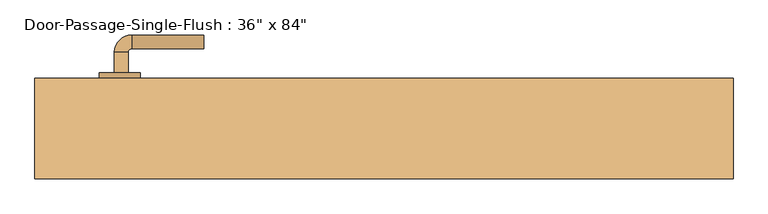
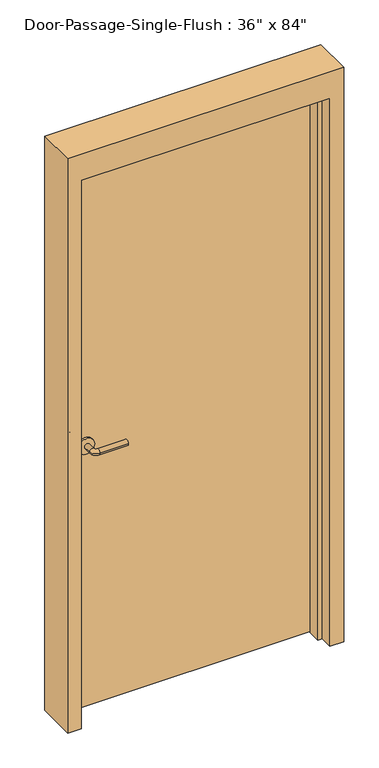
"""IFC4 building model written with IfcOpenShell, lengths in millimetres: door geometry."""

from ifc_helpers import new_model, si_unit, point, frame, frame_2d, origin, origin_with_axes, place, context, project, spatial, polyline, circle_curve, ellipse_curve, trimmed, segment, composite_curve, outline, extrude, faceted_brep, source, transform, mapped, element, save
from ifc_brep_helpers import plane_surface, cylinder_surface, revolved_surface, advanced_brep


def door_4b82438d(model_context):
    return source(origin(), model_context, "Body", "SolidModel", [
        advanced_brep(
        [(-392.190625, -8.0, 1016.0), (-372.190625, -8.0, 1016.0), (-372.190625, -38.0, 1016.0), (-392.190625, -38.0, 1016.0), (-367.190625, -43.0, 1016.0), (-367.190625, -63.0, 1016.0), (-262.190625, -63.0, 1016.0), (-262.190625, -43.0, 1016.0)],
        [
            (0, 1, circle_curve(frame((-382.190625, -8.0, 1016.0), z_axis=(0.0, 1.0, 0.0), x_axis=(1.0, 0.0, 0.0)), 10.0)),
            (1, 0, circle_curve(frame((-382.190625, -8.0, 1016.0), z_axis=(0.0, 1.0, 0.0), x_axis=(1.0, 0.0, 0.0)), 10.0)),
            (1, 2),
            (2, 3, circle_curve(frame((-382.190625, -38.0, 1016.0), z_axis=(0.0, 1.0, 0.0), x_axis=(1.0, 0.0, 0.0)), 10.0)),
            (3, 0),
            (3, 2, circle_curve(frame((-382.190625, -38.0, 1016.0), z_axis=(0.0, 1.0, 0.0), x_axis=(1.0, 0.0, 0.0)), 10.0)),
            (4, 5, circle_curve(frame((-367.190625, -53.0, 1016.0), z_axis=(-1.0, 0.0, 0.0), x_axis=(0.0, 1.0, 0.0)), 10.0)),
            (5, 3, circle_curve(frame((-367.190625, -38.0, 1016.0), z_axis=(0.0, 0.0, -1.0), x_axis=(-1.0, 0.0, 0.0)), 25.0)),
            (2, 4, circle_curve(frame((-367.190625, -38.0, 1016.0), z_axis=(0.0, 0.0, 1.0), x_axis=(-1.0, 0.0, 0.0)), 5.0)),
            (5, 4, circle_curve(frame((-367.190625, -53.0, 1016.0), z_axis=(-1.0, 0.0, 0.0), x_axis=(0.0, 1.0, 0.0)), 10.0)),
            (6, 7, circle_curve(frame((-262.190625, -53.0, 1016.0), z_axis=(1.0, 0.0, 0.0), x_axis=(0.0, 1.0, 0.0)), 10.0)),
            (7, 6, circle_curve(frame((-262.190625, -53.0, 1016.0), z_axis=(1.0, 0.0, 0.0), x_axis=(0.0, 1.0, 0.0)), 10.0)),
            (4, 7),
            (6, 5),
        ],
        [
            plane_surface(frame((-382.190625, -8.0, 1016.0), z_axis=(0.0, 1.0, 0.0), x_axis=(0.0, 0.0, 1.0))),
            cylinder_surface(frame((-382.190625, -8.0, 1016.0), z_axis=(0.0, 1.0, 0.0), x_axis=(1.0, 0.0, 0.0)), 10.0),
            revolved_surface(trimmed(ellipse_curve(frame((-382.190625, -38.0, 1016.0), z_axis=(0.0, -1.0, 0.0), x_axis=(1.0, 0.0, 0.0)), 10.0, 10.0), [point((-392.190625, -38.0, 1016.0))], [point((-372.190625, -38.0, 1016.0))], True, "CARTESIAN"), (-367.190625, -38.0, 1016.0), (0.0, 0.0, -1.0)),
            revolved_surface(trimmed(ellipse_curve(frame((-382.190625, -38.0, 1016.0), z_axis=(0.0, -1.0, 0.0), x_axis=(1.0, 0.0, 0.0)), 10.0, 10.0), [point((-372.190625, -38.0, 1016.0))], [point((-392.190625, -38.0, 1016.0))], True, "CARTESIAN"), (-367.190625, -38.0, 1016.0), (0.0, 0.0, -1.0)),
            plane_surface(frame((-262.190625, -53.0, 1016.0), z_axis=(1.0, 0.0, 0.0), x_axis=(0.0, 0.0, 1.0))),
            cylinder_surface(frame((-367.190625, -53.0, 1016.0), z_axis=(-1.0, 0.0, 0.0), x_axis=(0.0, 1.0, 0.0)), 10.0),
        ],
        [
            (0, [[1, 2]]),
            (1, [[3, 4, 5, -2]]),
            (1, [[-5, 6, -3, -1]]),
            (2, [[7, 8, -4, 9]]),
            (3, [[10, -9, -6, -8]]),
            (4, [[11, 12]]),
            (5, [[13, -11, 14, -7]]),
            (5, [[-14, -12, -13, -10]]),
        ],
    ),
        extrude(outline(composite_curve([segment(trimmed(circle_curve(frame_2d((1016.0, -384.690625)), 30.0), [point((1016.0, -414.690625))], [point((1016.0, -354.690625))], False, "CARTESIAN"), True, "CONTINUOUS"), segment(trimmed(circle_curve(frame_2d((1016.0, -384.690625)), 30.0), [point((1016.0, -354.690625))], [point((1016.0, -414.690625))], False, "CARTESIAN"), True, "CONTINUOUS")], self_intersect=False)), frame((0.0, -8.0, 0.0), z_axis=(0.0, 1.0, 0.0), x_axis=(0.0, 0.0, 1.0)), (0.0, 0.0, 1.0), 8.0),
        advanced_brep(
        [(-392.190625, 52.45, 1016.0), (-372.190625, 52.45, 1016.0), (-392.190625, 82.45, 1016.0), (-372.190625, 82.45, 1016.0), (-367.190625, 87.45, 1016.0), (-367.190625, 107.45, 1016.0), (-262.190625, 107.45, 1016.0), (-262.190625, 87.45, 1016.0)],
        [
            (0, 1, circle_curve(frame((-382.190625, 52.45, 1016.0), z_axis=(0.0, -1.0, 0.0), x_axis=(1.0, 0.0, 0.0)), 10.0)),
            (1, 0, circle_curve(frame((-382.190625, 52.45, 1016.0), z_axis=(0.0, -1.0, 0.0), x_axis=(1.0, 0.0, 0.0)), 10.0)),
            (0, 2),
            (2, 3, circle_curve(frame((-382.190625, 82.45, 1016.0), z_axis=(0.0, -1.0, 0.0), x_axis=(1.0, 0.0, 0.0)), 10.0)),
            (3, 1),
            (3, 2, circle_curve(frame((-382.190625, 82.45, 1016.0), z_axis=(0.0, -1.0, 0.0), x_axis=(1.0, 0.0, 0.0)), 10.0)),
            (4, 3, circle_curve(frame((-367.190625, 82.45, 1016.0), z_axis=(0.0, 0.0, 1.0), x_axis=(-1.0, 0.0, 0.0)), 5.0)),
            (2, 5, circle_curve(frame((-367.190625, 82.45, 1016.0), z_axis=(0.0, 0.0, -1.0), x_axis=(-1.0, 0.0, 0.0)), 25.0)),
            (5, 4, circle_curve(frame((-367.190625, 97.45, 1016.0), z_axis=(-1.0, 0.0, 0.0), x_axis=(0.0, -1.0, 0.0)), 10.0)),
            (4, 5, circle_curve(frame((-367.190625, 97.45, 1016.0), z_axis=(-1.0, 0.0, 0.0), x_axis=(0.0, -1.0, 0.0)), 10.0)),
            (6, 7, circle_curve(frame((-262.190625, 97.45, 1016.0), z_axis=(1.0, 0.0, 0.0), x_axis=(0.0, -1.0, 0.0)), 10.0)),
            (7, 6, circle_curve(frame((-262.190625, 97.45, 1016.0), z_axis=(1.0, 0.0, 0.0), x_axis=(0.0, -1.0, 0.0)), 10.0)),
            (5, 6),
            (7, 4),
        ],
        [
            plane_surface(frame((-382.190625, 52.45, 1016.0), z_axis=(0.0, -1.0, 0.0), x_axis=(0.0, 0.0, 1.0))),
            cylinder_surface(frame((-382.190625, 52.45, 1016.0), z_axis=(0.0, -1.0, 0.0), x_axis=(1.0, 0.0, 0.0)), 10.0),
            revolved_surface(trimmed(ellipse_curve(frame((-382.190625, 82.45, 1016.0), z_axis=(0.0, -1.0, 0.0), x_axis=(1.0, 0.0, 0.0)), 10.0, 10.0), [point((-392.190625, 82.45, 1016.0))], [point((-372.190625, 82.45, 1016.0))], True, "CARTESIAN"), (-367.190625, 82.45, 1016.0), (0.0, 0.0, -1.0)),
            revolved_surface(trimmed(ellipse_curve(frame((-382.190625, 82.45, 1016.0), z_axis=(0.0, -1.0, 0.0), x_axis=(1.0, 0.0, 0.0)), 10.0, 10.0), [point((-372.190625, 82.45, 1016.0))], [point((-392.190625, 82.45, 1016.0))], True, "CARTESIAN"), (-367.190625, 82.45, 1016.0), (0.0, 0.0, -1.0)),
            plane_surface(frame((-262.190625, 97.45, 1016.0), z_axis=(1.0, 0.0, 0.0), x_axis=(0.0, 0.0, 1.0))),
            cylinder_surface(frame((-367.190625, 97.45, 1016.0), z_axis=(-1.0, 0.0, 0.0), x_axis=(0.0, -1.0, 0.0)), 10.0),
        ],
        [
            (0, [[1, 2]]),
            (1, [[-1, 3, 4, 5]]),
            (1, [[-2, -5, 6, -3]]),
            (2, [[7, -4, 8, 9]]),
            (3, [[-8, -6, -7, 10]]),
            (4, [[11, 12]]),
            (5, [[-9, 13, -12, 14]]),
            (5, [[-10, -14, -11, -13]]),
        ],
    ),
        extrude(outline(composite_curve([segment(trimmed(circle_curve(frame_2d((1016.0, -384.690625)), 30.0), [point((1016.0, -414.690625))], [point((1016.0, -354.690625))], False, "CARTESIAN"), True, "CONTINUOUS"), segment(trimmed(circle_curve(frame_2d((1016.0, -384.690625)), 30.0), [point((1016.0, -354.690625))], [point((1016.0, -414.690625))], False, "CARTESIAN"), True, "CONTINUOUS")], self_intersect=False)), frame((0.0, 44.45, 0.0), z_axis=(0.0, 1.0, 0.0), x_axis=(0.0, 0.0, 1.0)), (0.0, 0.0, 1.0), 8.0),
        faceted_brep([(457.2, -4.7625, 0.0), (457.2, 44.45, 0.0), (508.0, 44.45, 0.0), (508.0, -101.6, 0.0), (457.2, -101.6, 0.0), (457.2, -52.3875, 0.0), (441.325, -52.3875, 0.0), (441.325, -4.7625, 0.0), (457.2, -4.7625, 2133.6), (457.2, 44.45, 2133.6), (-457.2, 44.45, 2133.6), (-457.2, 44.45, 0.0), (-508.0, 44.45, 0.0), (-508.0, 44.45, 2235.2), (508.0, 44.45, 2235.2), (508.0, -101.6, 2235.2), (-508.0, -101.6, 2235.2), (-508.0, -101.6, 0.0), (-457.2, -101.6, 0.0), (-457.2, -101.6, 2133.6), (457.2, -101.6, 2133.6), (457.2, -52.3875, 2133.6), (-457.2, -52.3875, 2133.6), (-457.2, -52.3875, 0.0), (-441.325, -52.3875, 0.0), (-441.325, -52.3875, 2117.725), (441.325, -52.3875, 2117.725), (441.325, -4.7625, 2117.725), (-441.325, -4.7625, 2117.725), (-441.325, -4.7625, 0.0), (-457.2, -4.7625, 0.0), (-457.2, -4.7625, 2133.6)], [[[0, 1, 2, 3, 4, 5, 6, 7]], [[1, 0, 8, 9]], [[2, 1, 9, 10, 11, 12, 13, 14]], [[3, 2, 14, 15]], [[4, 3, 15, 16, 17, 18, 19, 20]], [[5, 4, 20, 21]], [[6, 5, 21, 22, 23, 24, 25, 26]], [[7, 6, 26, 27]], [[0, 7, 27, 28, 29, 30, 31, 8]], [[9, 8, 31, 10]], [[20, 19, 22, 21]], [[26, 25, 28, 27]], [[12, 11, 30, 29, 24, 23, 18, 17]], [[11, 10, 31, 30]], [[13, 12, 17, 16]], [[19, 18, 23, 22]], [[25, 24, 29, 28]], [[15, 14, 13, 16]]]),
        extrude(outline(polyline([(457.2, 0.0), (-457.2, 0.0), (-457.2, 44.45), (457.2, 44.45), (457.2, 0.0)])), origin_with_axes(), (0.0, 0.0, 1.0), 2133.6),
    ])


if __name__ == "__main__":
    model = new_model("IFC4")
    model_context = context("Model", 3, world=origin())
    ifc_project = project(units=[si_unit("LENGTHUNIT", "METRE", prefix="MILLI")], contexts=[model_context])
    site = spatial("IfcSite", under=ifc_project)
    building = spatial("IfcBuilding", under=site)
    placement = place(None, origin())
    door_shape = door_4b82438d(model_context)
    element("IfcDoor", 1, ObjectType="Door-Passage-Single-Flush : 36\" x 84\"", at=placement, inside=building, context=model_context, shape_type="MappedRepresentation", body=[
        mapped(door_shape, transform((0.0, 0.0, 0.0), x_axis=(1.0, 0.0, 0.0), y_axis=(0.0, 1.0, 0.0), z_axis=(0.0, 0.0, 1.0))),
    ])
    save(model, "model.ifc")
